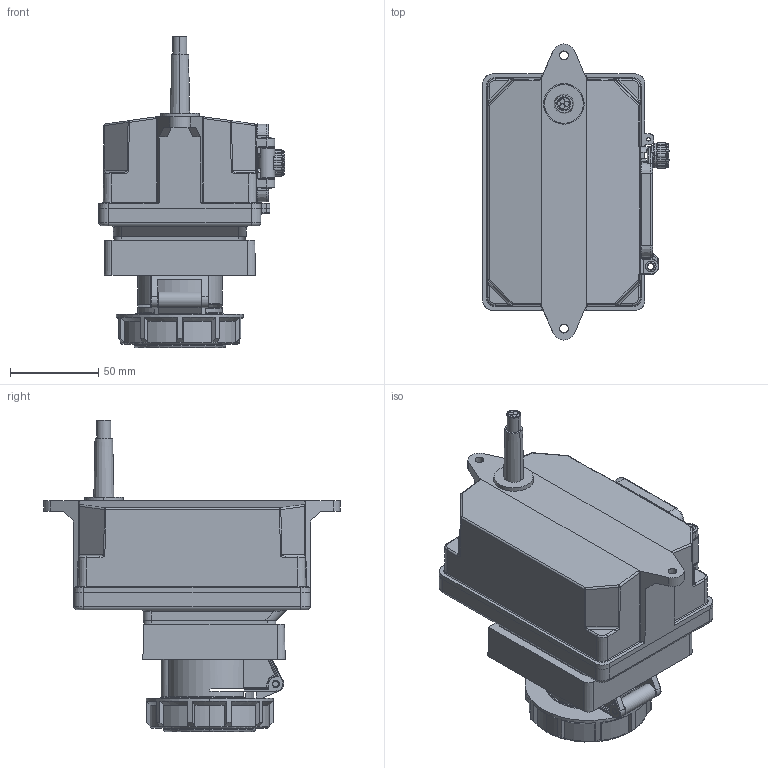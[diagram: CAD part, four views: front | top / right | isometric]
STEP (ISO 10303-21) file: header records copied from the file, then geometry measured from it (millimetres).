
FILE_DESCRIPTION (( 'STEP AP203' ), '1' );
FILE_NAME ('3D - HSW4044 Außenkontur.STEP', '2019-07-25T09:00:40', ( '' ), ( '' ), 'SwSTEP 2.0', 'SolidWorks 2013', '' );
FILE_SCHEMA (( 'CONFIG_CONTROL_DESIGN' ));
Length unit declared in the file: millimetre
Products named in the file (1): 3D - HSW4044 Außenkontur
Bounding box: 105.82 x 168 x 176.5 mm (x, y, z)
Surface area: 94646.3 mm2 (no closed solid volume)
Topology: 0 solids, 32 shells, 824 faces, 3004 edges, 2086 vertices
Faces by surface type: cylinder 296, plane 239, torus 95, cone 84, bspline 79, sphere 31
Entity records: 38195 total; most frequent: CARTESIAN_POINT 14125, DIRECTION 4801, ORIENTED_EDGE 4696, EDGE_CURVE 2990, VERTEX_POINT 2085, AXIS2_PLACEMENT_3D 1764, VECTOR 1273, LINE 1273
